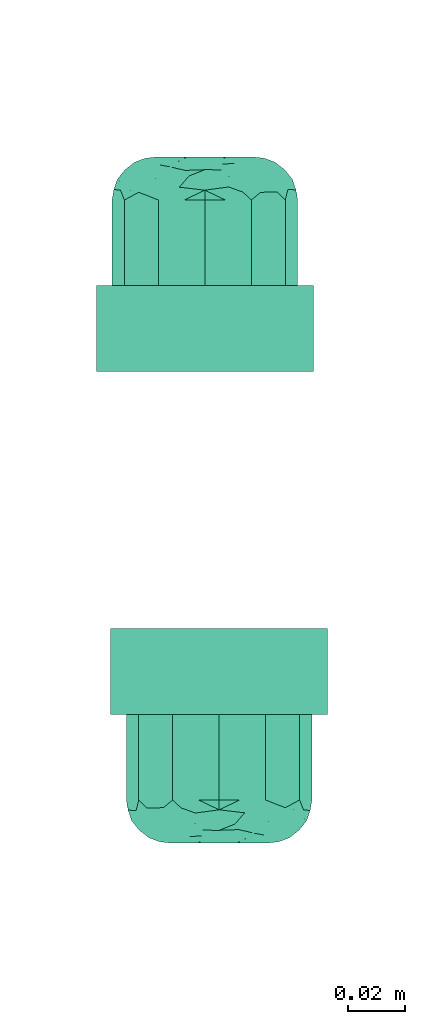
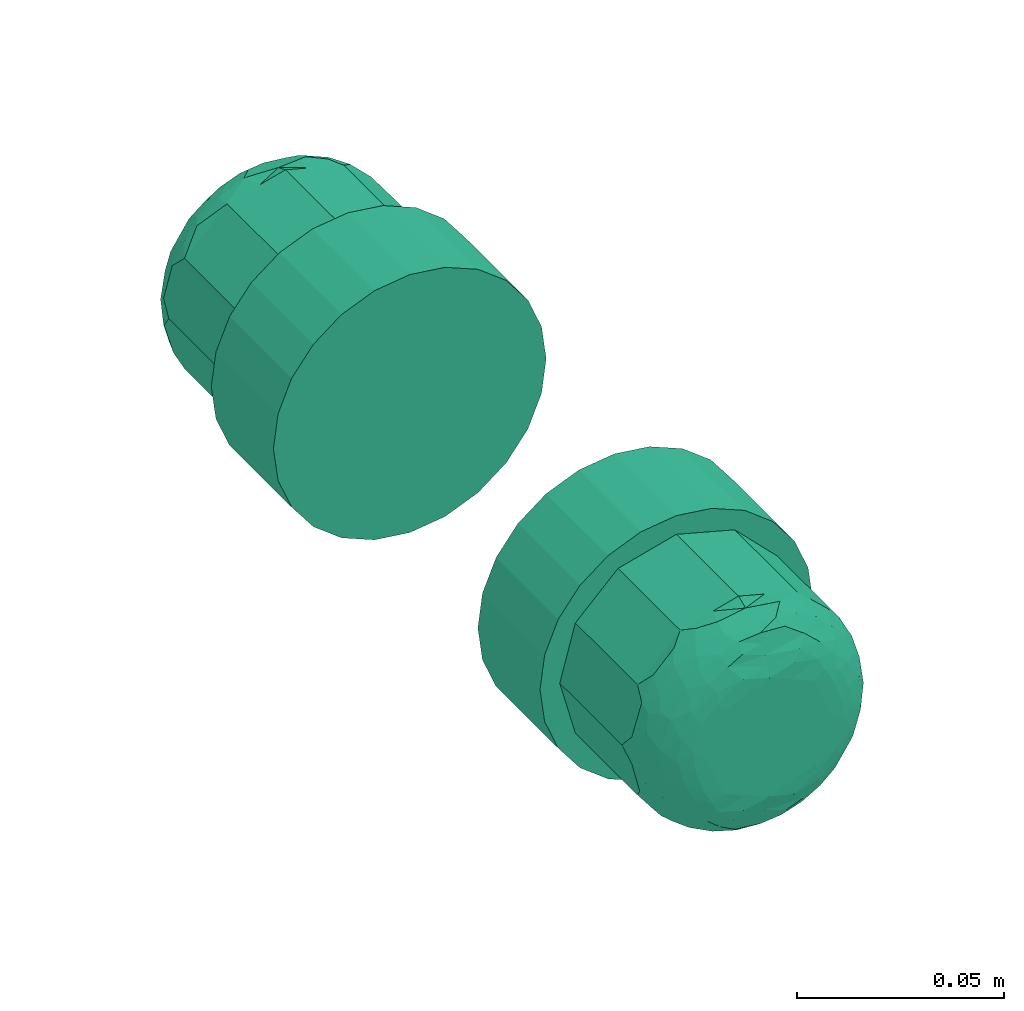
# One storey, part 69 of 153: 2 distribution control elements.
"""IFC2X3 building model written with IfcOpenShell, lengths in metres."""

from ifc_helpers import new_model, entity, si_unit, converted_unit, derived_unit, direction, frame, origin, place, context, subcontext, project, spatial, faceted_brep, source, transform, mapped, material, type_object, type_shapes, element, save


model = new_model("IFC2X3")

# Units and contexts
model_context = context("Model", 3, precision=1e-05, world=origin(), true_north=direction((6.12303176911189e-17, 1.0)))
body_context = subcontext(model_context, "Body", "Model", "MODEL_VIEW")
ifc_project = project(units=[si_unit("LENGTHUNIT", "METRE"), si_unit("AREAUNIT", "SQUARE_METRE"), si_unit("VOLUMEUNIT", "CUBIC_METRE"), converted_unit("PLANEANGLEUNIT", "DEGREE", entity("IfcRatioMeasure", 0.0174532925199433), si_unit("PLANEANGLEUNIT", "RADIAN"), dimensions=[0, 0, 0, 0, 0, 0, 0]), si_unit("MASSUNIT", "GRAM", prefix="KILO"), derived_unit("MASSDENSITYUNIT", [(si_unit("MASSUNIT", "GRAM", prefix="KILO"), 1), (si_unit("LENGTHUNIT", "METRE"), -3)]), si_unit("TIMEUNIT", "SECOND"), si_unit("FREQUENCYUNIT", "HERTZ"), si_unit("THERMODYNAMICTEMPERATUREUNIT", "DEGREE_CELSIUS"), derived_unit("THERMALTRANSMITTANCEUNIT", [(si_unit("MASSUNIT", "GRAM", prefix="KILO"), 1), (si_unit("THERMODYNAMICTEMPERATUREUNIT", "KELVIN"), -1), (si_unit("TIMEUNIT", "SECOND"), -3)]), derived_unit("VOLUMETRICFLOWRATEUNIT", [(si_unit("LENGTHUNIT", "METRE"), 3), (si_unit("TIMEUNIT", "SECOND"), -1)]), si_unit("ELECTRICCURRENTUNIT", "AMPERE"), si_unit("ELECTRICVOLTAGEUNIT", "VOLT"), si_unit("POWERUNIT", "WATT"), si_unit("FORCEUNIT", "NEWTON"), si_unit("ILLUMINANCEUNIT", "LUX"), si_unit("LUMINOUSFLUXUNIT", "LUMEN"), si_unit("LUMINOUSINTENSITYUNIT", "CANDELA"), derived_unit("USERDEFINED", [(si_unit("MASSUNIT", "GRAM", prefix="KILO"), -1), (si_unit("LENGTHUNIT", "METRE"), -2), (si_unit("TIMEUNIT", "SECOND"), 3), (si_unit("LUMINOUSFLUXUNIT", "LUMEN"), 1)]), derived_unit("LINEARVELOCITYUNIT", [(si_unit("LENGTHUNIT", "METRE"), 1), (si_unit("TIMEUNIT", "SECOND"), -1)]), si_unit("PRESSUREUNIT", "PASCAL"), derived_unit("USERDEFINED", [(si_unit("LENGTHUNIT", "METRE"), -2), (si_unit("MASSUNIT", "GRAM", prefix="KILO"), 1), (si_unit("TIMEUNIT", "SECOND"), -2)])], contexts=[model_context])

# Site, building, storey
site_placement = place(None, origin())
site = spatial("IfcSite", under=ifc_project, at=site_placement, Name="Default", CompositionType="ELEMENT")
building_placement = place(site_placement, origin())
building = spatial("IfcBuilding", under=site, at=building_placement, CompositionType="ELEMENT")
storey_placement = place(building_placement, frame((0.0, 0.0, -4.62)))
storey = spatial("IfcBuildingStorey", under=building, at=storey_placement, Name="S02", CompositionType="ELEMENT", Elevation=-4.62)

# Distribution control elements
ifc_material = material(Name="Red plastic")
alarm_type = type_object("IfcAlarmType", Name="Incendie_Flash", PredefinedType="NOTDEFINED", material=ifc_material)
shared_shape = source(origin(), body_context, "Body", "Brep", [
    faceted_brep([(0.00983512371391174, -0.0367051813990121, 0.0299999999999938), (0.0190000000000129, -0.0329089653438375, 0.0299999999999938), (0.0268700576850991, -0.0268700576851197, 0.0299999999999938), (0.0329089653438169, -0.0190000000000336, 0.0299999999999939), (0.0367051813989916, -0.00983512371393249, 0.029999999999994), (0.0380000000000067, 0.0, 0.0299999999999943), (0.0367051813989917, 0.0098351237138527, 0.0299999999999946), (0.0329089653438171, 0.0189999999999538, 0.0299999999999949), (0.0268700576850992, 0.02687005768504, 0.0299999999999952), (0.0190000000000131, 0.0329089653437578, 0.0299999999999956), (0.00983512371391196, 0.0367051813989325, 0.0299999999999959), (0.0, 0.0379999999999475, 0.0299999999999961), (-0.00983512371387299, 0.0367051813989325, 0.0299999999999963), (-0.0189999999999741, 0.0329089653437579, 0.0299999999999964), (-0.0268700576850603, 0.0268700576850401, 0.0299999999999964), (-0.0329089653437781, 0.0189999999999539, 0.0299999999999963), (-0.0367051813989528, 0.0098351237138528, 0.0299999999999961), (-0.0379999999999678, 0.0, 0.0299999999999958), (-0.0367051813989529, -0.00983512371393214, 0.0299999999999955), (-0.0329089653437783, -0.0190000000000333, 0.0299999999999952), (-0.0268700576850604, -0.0268700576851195, 0.0299999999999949), (-0.0189999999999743, -0.0329089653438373, 0.0299999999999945), (-0.0098351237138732, -0.036705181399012, 0.0299999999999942), (0.0, -0.038000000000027, 0.029999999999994), (0.0367051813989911, 0.00983512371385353, 0.0), (0.038000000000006, 0.0, 0.0), (0.036705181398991, -0.00983512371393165, 0.0), (0.0329089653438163, -0.0190000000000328, 0.0), (0.0268700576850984, -0.0268700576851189, 0.0), (0.0190000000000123, -0.0329089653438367, 0.0), (0.00983512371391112, -0.0367051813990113, 0.0), (0.0, -0.0380000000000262, 0.0), (-0.00983512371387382, -0.0367051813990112, 0.0), (-0.0189999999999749, -0.0329089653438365, 0.0), (-0.0268700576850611, -0.0268700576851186, 0.0), (-0.0329089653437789, -0.0190000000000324, 0.0), (-0.0367051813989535, -0.00983512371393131, 0.0), (-0.0379999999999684, 0.0, 0.0), (-0.0367051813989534, 0.00983512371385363, 0.0), (-0.0329089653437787, 0.0189999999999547, 0.0), (-0.0268700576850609, 0.0268700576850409, 0.0), (-0.0189999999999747, 0.0329089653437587, 0.0), (-0.00983512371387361, 0.0367051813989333, 0.0), (0.0, 0.0379999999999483, 0.0), (0.00983512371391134, 0.0367051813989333, 0.0), (0.0190000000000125, 0.0329089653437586, 0.0), (0.0268700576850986, 0.0268700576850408, 0.0), (0.0329089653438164, 0.0189999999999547, 0.0)], [[[0, 1, 2, 3, 4, 5, 6, 7, 8, 9, 10, 11, 12, 13, 14, 15, 16, 17, 18, 19, 20, 21, 22, 23]], [[24, 25, 26, 27, 28, 29, 30, 31, 32, 33, 34, 35, 36, 37, 38, 39, 40, 41, 42, 43, 44, 45, 46, 47]], [[36, 18, 17, 37]], [[35, 19, 18, 36]], [[21, 20, 34, 33]], [[35, 34, 20, 19]], [[22, 21, 33, 32]], [[23, 22, 32, 31]], [[30, 0, 23, 31]], [[29, 1, 0, 30]], [[29, 28, 2, 1]], [[28, 27, 3, 2]], [[26, 4, 3, 27]], [[26, 25, 5, 4]], [[24, 6, 5, 25]], [[47, 7, 6, 24]], [[9, 8, 46, 45]], [[47, 46, 8, 7]], [[10, 9, 45, 44]], [[11, 10, 44, 43]], [[43, 42, 12, 11]], [[15, 39, 38, 16]], [[40, 39, 15, 14]], [[16, 38, 37, 17]], [[12, 42, 41, 13]], [[41, 40, 14, 13]]]),
    faceted_brep([(0.0, 0.0310753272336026, 0.0634394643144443), (-0.00716197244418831, 0.0305809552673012, 0.0600000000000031), (-0.00833767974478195, 0.0306762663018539, 0.0645629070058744), (-0.0318494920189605, -0.00354130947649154, 0.063663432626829), (-0.0306323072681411, -0.000670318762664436, 0.0672353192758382), (-0.0317848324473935, 0.0042753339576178, 0.0635614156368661), (-0.0227868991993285, -0.00668807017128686, 0.0736367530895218), (-0.0182577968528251, -0.00974892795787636, 0.0746552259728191), (-0.0202727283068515, -0.00358393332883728, 0.074678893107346), (-0.016385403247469, 0.0254148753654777, 0.0679194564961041), (-0.021187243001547, 0.0212245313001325, 0.0683071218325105), (-0.0167767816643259, 0.0227822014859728, 0.0704169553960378), (-0.0200936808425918, -0.0121748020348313, 0.0737502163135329), (-0.00857849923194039, 0.0288841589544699, 0.0680903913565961), (-0.00590296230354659, 0.0275227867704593, 0.0705643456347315), (0.0, 0.0281066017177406, 0.070606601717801), (-0.0253054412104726, 0.0115121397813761, 0.0709036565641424), (-0.0298000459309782, 0.0070831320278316, 0.0672523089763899), (-0.0279333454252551, 0.00316972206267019, 0.0706005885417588), (-0.0142535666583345, 0.0145433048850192, 0.0747241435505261), (-0.00714839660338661, 0.0193281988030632, 0.0746745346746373), (-0.0140812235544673, 0.0176795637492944, 0.0741056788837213), (-0.0187772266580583, 0.0101036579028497, 0.0745046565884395), (-0.0207236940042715, 0.0135056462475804, 0.0731392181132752), (-0.0212676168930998, 0.0232237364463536, 0.0654097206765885), (-0.0253709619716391, 0.0198772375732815, 0.0628318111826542), (-0.0260097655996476, 0.0163827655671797, 0.0670513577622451), (-0.0273833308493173, -0.00573701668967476, 0.0707338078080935), (-0.0245225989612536, -8.80194780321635e-05, 0.0732544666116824), (-0.0290659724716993, 0.0135031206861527, 0.0636489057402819), (-0.0303229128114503, 0.00812499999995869, 0.0600000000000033), (-0.0265039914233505, -0.0119036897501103, 0.0695653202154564), (-0.0207033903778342, -0.0187904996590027, 0.0707520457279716), (-0.0231315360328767, -0.0125689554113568, 0.0721287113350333), (-0.00891676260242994, -0.0305418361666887, 0.064475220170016), (-0.0162499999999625, -0.0281458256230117, 0.0600000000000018), (-0.00812499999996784, -0.0303229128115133, 0.0600000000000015), (-0.00716197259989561, -0.0305809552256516, 0.0600000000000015), (-0.0104492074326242, 0.0229229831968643, 0.0728774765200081), (-0.0115458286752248, 0.0257177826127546, 0.0705219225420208), (0.0, -0.0228033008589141, 0.0728033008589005), (-0.00912165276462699, -0.0220231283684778, 0.0735954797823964), (-0.0118384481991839, -0.0243524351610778, 0.0715443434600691), (-0.0295480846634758, -0.0125213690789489, 0.0634761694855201), (-0.0297777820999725, -0.00830917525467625, 0.066710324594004), (-0.0212284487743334, -0.0212045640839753, 0.0682845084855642), (-0.0258588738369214, -0.0163601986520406, 0.0673075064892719), (-0.0171631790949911, -0.0251277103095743, 0.0676038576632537), (-0.0237895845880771, 0.00671046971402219, 0.0731492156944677), (-0.0212013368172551, 0.00276607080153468, 0.0744892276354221), (-0.0149371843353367, 0.00618718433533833, 0.0750000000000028), (-0.0207033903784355, 0.0187905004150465, 0.0707520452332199), (-0.0303229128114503, -0.00812500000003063, 0.0600000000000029), (-0.0155298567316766, -0.0142338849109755, 0.0745699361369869), (0.0, 0.0296506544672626, 0.0668789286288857), (0.0, -0.0281066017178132, 0.0706066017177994), (0.0, -0.0254549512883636, 0.0717049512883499), (-0.00689181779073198, -0.0275012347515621, 0.0703557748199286), (-0.0140812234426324, -0.0176795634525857, 0.0741056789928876), (-0.00714839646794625, -0.0193281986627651, 0.0746745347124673), (-0.00618718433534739, -0.0149371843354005, 0.0750000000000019), (0.0, 0.0228033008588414, 0.0728033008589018), (-0.0062193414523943, 0.024999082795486, 0.0725201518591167), (-0.0162499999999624, 0.0281458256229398, 0.0600000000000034), (-0.0221979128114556, 0.0221979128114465, 0.0600000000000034), (-0.0195368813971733, 0.0256689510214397, 0.0626830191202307), (-0.0150650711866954, 0.0277296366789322, 0.0652326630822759), (0.0, 0.0324999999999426, 0.0600000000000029), (-0.0133801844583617, 0.0293432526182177, 0.0627277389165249), (-0.00812499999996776, 0.0303229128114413, 0.0600000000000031), (-0.0281458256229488, 0.0162499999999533, 0.0600000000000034), (-0.0288189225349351, 0.0118325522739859, 0.0662114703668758), (-0.026864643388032, 0.0126649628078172, 0.0687264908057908), (-0.0324999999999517, 0.0, 0.0600000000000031), (-0.0281458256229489, -0.0162500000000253, 0.0600000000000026), (-0.0123743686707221, -0.0123743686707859, 0.0750000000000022), (-0.0149371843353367, -0.00618718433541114, 0.0750000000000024), (-0.0261755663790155, -0.0186043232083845, 0.0633828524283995), (-0.0231574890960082, -0.022453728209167, 0.0626954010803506), (-0.0215965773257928, -0.0229734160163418, 0.0653044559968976), (-0.0116849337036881, -0.028048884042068, 0.0676788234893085), (-0.0161946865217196, -0.027510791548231, 0.0641184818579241), (-0.005544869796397, -0.029399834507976, 0.0684136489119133), (0.0, -0.0201516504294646, 0.0739016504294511), (-0.0221979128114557, -0.0221979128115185, 0.0600000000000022), (-0.0160989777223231, 0.0197228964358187, 0.0727142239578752), (0.0, 0.0201516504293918, 0.0739016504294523), (0.0, 0.0174999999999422, 0.0750000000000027), (-0.00618718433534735, 0.0149371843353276, 0.0750000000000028), (-0.018783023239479, -0.0171862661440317, 0.072714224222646), (-0.0123743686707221, 0.0123743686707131, 0.075000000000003), (-0.0174999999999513, 0.0, 0.0750000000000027), (0.0, -0.0310753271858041, 0.0634394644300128), (0.0, -0.0296506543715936, 0.0668789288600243), (0.0, -0.0325000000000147, 0.0600000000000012), (-0.0154632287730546, -0.0211512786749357, 0.0722185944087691), (0.0, -0.0175000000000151, 0.0750000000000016), (0.0, 0.025454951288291, 0.0717049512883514), (0.0071619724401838, -0.0305809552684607, 0.060000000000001), (0.0083376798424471, -0.030676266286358, 0.0645629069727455), (0.0207033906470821, -0.0187905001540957, 0.0707520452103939), (0.0253054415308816, -0.0115121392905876, 0.0709036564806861), (0.020723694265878, -0.0135056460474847, 0.0731392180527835), (0.0115458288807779, -0.0257177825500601, 0.0705219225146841), (0.00590296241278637, -0.0275227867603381, 0.0705643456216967), (0.00857849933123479, -0.0288841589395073, 0.0680903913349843), (0.0163854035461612, -0.0254148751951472, 0.0679194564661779), (0.0211872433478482, -0.0212245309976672, 0.0683071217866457), (0.016776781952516, -0.0227822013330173, 0.0704169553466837), (0.0290659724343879, -0.0135031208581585, 0.0636489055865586), (0.0303229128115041, -0.0081250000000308, 0.0600000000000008), (0.0317848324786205, -0.0042753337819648, 0.0635614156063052), (0.0265039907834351, 0.0119036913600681, 0.0695653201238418), (0.0207033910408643, 0.0187904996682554, 0.0707520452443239), (0.0231315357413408, 0.0125689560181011, 0.0721287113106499), (0.0142535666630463, -0.0145433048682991, 0.074724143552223), (0.00714839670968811, -0.0193281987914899, 0.074674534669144), (0.0140812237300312, -0.0176795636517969, 0.0741056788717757), (0.0187772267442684, -0.01010365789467, 0.0745046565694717), (0.023789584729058, -0.0067104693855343, 0.0731492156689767), (0.0279333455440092, -0.00316972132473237, 0.070600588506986), (0.024522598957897, 8.80198207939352e-05, 0.0732544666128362), (0.027383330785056, 0.00573701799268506, 0.070733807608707), (0.0227868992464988, 0.00668807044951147, 0.0736367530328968), (0.0104492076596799, -0.0229229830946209, 0.0728774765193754), (0.0297777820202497, 0.00830917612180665, 0.0667103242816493), (0.0318494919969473, 0.0035413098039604, 0.0636634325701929), (0.0295480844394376, 0.0125213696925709, 0.0634761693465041), (0.0303229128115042, 0.00812499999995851, 0.0600000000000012), (0.0200936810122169, 0.0121748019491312, 0.073750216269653), (0.0182577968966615, 0.00974892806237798, 0.074655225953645), (0.0118384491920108, 0.0243524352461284, 0.0715443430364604), (0.0212284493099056, 0.0212045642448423, 0.0682845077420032), (0.0171631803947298, 0.0251277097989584, 0.0676038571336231), (0.020272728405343, 0.00358393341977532, 0.0746788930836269), (0.00912165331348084, 0.0220231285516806, 0.073595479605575), (0.0306323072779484, 0.00067031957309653, 0.0672353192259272), (0.02585887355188, 0.0163601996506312, 0.0673075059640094), (0.00891676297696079, 0.030541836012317, 0.0644752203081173), (0.0162500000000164, 0.0281458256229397, 0.0600000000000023), (0.0081250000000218, 0.0303229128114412, 0.0600000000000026), (0.00716197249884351, 0.0305809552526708, 0.0600000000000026), (0.0212676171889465, -0.0232237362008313, 0.0654097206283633), (0.0253709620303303, -0.0198772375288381, 0.0628318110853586), (0.0260097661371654, -0.0163827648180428, 0.0670513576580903), (0.0298000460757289, -0.00708313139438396, 0.0672523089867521), (0.0212013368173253, -0.00276607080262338, 0.0744892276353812), (0.0149371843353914, -0.00618718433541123, 0.0750000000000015), (0.0155298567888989, 0.0142338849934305, 0.0745699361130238), (0.00689181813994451, 0.0275012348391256, 0.0703557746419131), (0.014081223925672, 0.0176795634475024, 0.0741056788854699), (0.00714839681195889, 0.0193281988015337, 0.0746745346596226), (0.00618718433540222, 0.0149371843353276, 0.0750000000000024), (0.00621934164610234, -0.0249990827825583, 0.0725201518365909), (0.0162500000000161, -0.0281458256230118, 0.0600000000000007), (0.0221979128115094, -0.0221979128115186, 0.0600000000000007), (0.0195368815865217, -0.0256689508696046, 0.0626830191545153), (0.0150650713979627, -0.0277296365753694, 0.0652326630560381), (0.0133801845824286, -0.0293432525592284, 0.0627277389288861), (0.00812500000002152, -0.0303229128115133, 0.060000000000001), (0.0281458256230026, -0.0162500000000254, 0.0600000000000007), (0.0288189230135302, -0.0118325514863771, 0.0662114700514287), (0.0268646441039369, -0.0126649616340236, 0.0687264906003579), (0.0325000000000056, 0.0, 0.060000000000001), (0.0281458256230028, 0.0162499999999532, 0.0600000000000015), (0.0123743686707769, 0.012374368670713, 0.0750000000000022), (0.0149371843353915, 0.00618718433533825, 0.0750000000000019), (0.0261755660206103, 0.0186043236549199, 0.0633828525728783), (0.0231574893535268, 0.0224537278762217, 0.0626954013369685), (0.0215965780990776, 0.0229734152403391, 0.06530445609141), (0.0116849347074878, 0.0280488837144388, 0.0676788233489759), (0.0161946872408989, 0.027510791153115, 0.0641184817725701), (0.00554487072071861, 0.0293998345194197, 0.0684136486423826), (0.0221979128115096, 0.0221979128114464, 0.0600000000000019), (0.0160989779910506, -0.0197228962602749, 0.0727142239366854), (0.00618718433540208, -0.0149371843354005, 0.0750000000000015), (0.0187830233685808, 0.0171862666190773, 0.072714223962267), (0.0123743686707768, -0.012374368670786, 0.0750000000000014), (0.017500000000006, 0.0, 0.0750000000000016), (0.0154632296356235, 0.021151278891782, 0.0722185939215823), (0.0, 0.0, 0.0750000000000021), (0.0, 0.0, 0.0300000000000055), (0.0, -0.0325000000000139, 0.0300000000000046), (-0.0089852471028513, -0.0300924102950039, 0.0300000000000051), (-0.0162499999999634, -0.028145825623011, 0.0300000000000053), (-0.0221979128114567, -0.0221979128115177, 0.0300000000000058), (-0.0281458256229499, -0.0162500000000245, 0.030000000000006), (-0.0303229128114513, -0.00812500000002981, 0.0300000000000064), (-0.0324999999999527, 0.0, 0.0300000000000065), (-0.0303229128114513, 0.00812499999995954, 0.0300000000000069), (-0.0281458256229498, 0.0162499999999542, 0.0300000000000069), (-0.0221979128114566, 0.0221979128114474, 0.030000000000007), (-0.0162499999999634, 0.0281458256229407, 0.0300000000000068), (-0.00812499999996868, 0.0303229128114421, 0.0300000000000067), (0.0, 0.0324999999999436, 0.0300000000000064), (0.00898524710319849, 0.0300924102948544, 0.0300000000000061), (0.00812500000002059, -0.0303229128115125, 0.0300000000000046), (0.0162500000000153, -0.0281458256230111, 0.0300000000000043), (0.0221979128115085, -0.0221979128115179, 0.0300000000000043), (0.0281458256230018, -0.0162500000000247, 0.0300000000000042), (0.0303229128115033, -0.00812500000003, 0.0300000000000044), (0.0325000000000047, 0.0, 0.0300000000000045), (0.0162500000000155, 0.0281458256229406, 0.0300000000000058), (0.0221979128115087, 0.0221979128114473, 0.0300000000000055), (0.0281458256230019, 0.016249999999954, 0.0300000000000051), (0.0303229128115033, 0.00812499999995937, 0.0300000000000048)], [[[0, 1, 2]], [[3, 4, 5]], [[6, 7, 8]], [[9, 10, 11]], [[12, 7, 6]], [[13, 14, 15]], [[16, 17, 18]], [[19, 20, 21]], [[22, 19, 23]], [[24, 25, 26]], [[27, 6, 28]], [[17, 5, 4]], [[29, 30, 5]], [[31, 32, 33]], [[34, 35, 36, 37]], [[38, 39, 11]], [[40, 41, 42]], [[43, 44, 3]], [[27, 33, 6]], [[45, 32, 46]], [[45, 47, 42]], [[48, 18, 28]], [[14, 13, 39]], [[49, 50, 22]], [[51, 16, 23]], [[43, 3, 52]], [[20, 38, 21]], [[53, 7, 12]], [[15, 54, 13]], [[55, 56, 57]], [[58, 59, 60]], [[61, 62, 38]], [[63, 64, 65]], [[65, 25, 24]], [[66, 13, 2]], [[54, 2, 13]], [[13, 66, 9]], [[66, 65, 24]], [[54, 0, 2]], [[0, 67, 1]], [[68, 1, 69, 63]], [[68, 66, 2]], [[9, 66, 24]], [[26, 25, 29]], [[25, 64, 70]], [[26, 51, 10]], [[29, 25, 70]], [[26, 71, 72]], [[30, 73, 5]], [[71, 26, 29]], [[29, 70, 30]], [[3, 5, 73]], [[5, 17, 71]], [[74, 43, 52]], [[3, 44, 4]], [[3, 73, 52]], [[27, 4, 44]], [[18, 17, 4]], [[44, 46, 31]], [[7, 75, 76]], [[27, 18, 4]], [[16, 18, 48]], [[23, 16, 48]], [[51, 26, 72]], [[77, 43, 74]], [[44, 43, 46]], [[77, 78, 79]], [[80, 81, 34]], [[77, 46, 43]], [[45, 46, 79]], [[55, 57, 82]], [[59, 41, 83]], [[47, 81, 80]], [[81, 78, 35]], [[46, 77, 79]], [[74, 84, 35, 78]], [[10, 9, 24]], [[13, 9, 39]], [[26, 10, 24]], [[11, 10, 51]], [[38, 85, 21]], [[9, 11, 39]], [[85, 11, 51]], [[38, 20, 86]], [[86, 20, 87]], [[86, 61, 38]], [[31, 33, 27]], [[19, 88, 20]], [[88, 87, 20]], [[89, 33, 32]], [[22, 23, 48]], [[23, 21, 85]], [[22, 48, 49]], [[19, 22, 90]], [[28, 49, 48]], [[6, 8, 28]], [[50, 49, 91]], [[50, 90, 22]], [[27, 28, 18]], [[8, 7, 76]], [[49, 8, 91]], [[6, 33, 12]], [[91, 8, 76]], [[8, 49, 28]], [[89, 12, 33]], [[53, 12, 58]], [[58, 60, 53]], [[75, 7, 53]], [[92, 93, 34]], [[75, 53, 60]], [[93, 82, 34]], [[37, 94, 92]], [[37, 92, 34]], [[81, 79, 78]], [[35, 34, 81]], [[44, 31, 27]], [[32, 31, 46]], [[65, 66, 68]], [[25, 65, 64]], [[32, 95, 89]], [[56, 40, 42]], [[57, 80, 82]], [[56, 42, 57]], [[42, 80, 57]], [[34, 82, 80]], [[55, 82, 93]], [[41, 40, 83]], [[83, 96, 59]], [[58, 89, 95]], [[60, 59, 96]], [[41, 59, 58]], [[62, 61, 97]], [[97, 15, 14]], [[62, 14, 39]], [[14, 62, 97]], [[39, 38, 62]], [[1, 68, 2]], [[65, 68, 63]], [[5, 71, 29]], [[72, 17, 16]], [[17, 72, 71]], [[51, 72, 16]], [[47, 45, 79]], [[42, 32, 45]], [[81, 47, 79]], [[42, 47, 80]], [[74, 78, 77]], [[11, 85, 38]], [[23, 85, 51]], [[32, 42, 95]], [[12, 89, 58]], [[42, 41, 95]], [[58, 95, 41]], [[88, 19, 90]], [[23, 19, 21]], [[92, 98, 99]], [[100, 101, 102]], [[103, 104, 105]], [[106, 107, 108]], [[109, 110, 111]], [[55, 105, 104]], [[112, 113, 114]], [[115, 116, 117]], [[118, 115, 102]], [[119, 120, 121]], [[122, 123, 121]], [[124, 103, 108]], [[125, 126, 127]], [[127, 126, 128]], [[129, 130, 123]], [[131, 132, 133]], [[123, 130, 134]], [[61, 135, 131]], [[126, 136, 111]], [[132, 113, 137]], [[138, 139, 140, 141]], [[142, 143, 144]], [[145, 111, 136]], [[146, 147, 118]], [[122, 114, 123]], [[101, 145, 120]], [[116, 124, 117]], [[148, 130, 129]], [[55, 93, 105]], [[15, 97, 149]], [[150, 151, 152]], [[40, 153, 124]], [[154, 155, 156]], [[156, 143, 142]], [[157, 105, 99]], [[93, 99, 105]], [[105, 157, 106]], [[157, 156, 142]], [[93, 92, 99]], [[92, 94, 98]], [[158, 98, 159, 154]], [[158, 157, 99]], [[106, 157, 142]], [[144, 143, 109]], [[143, 155, 160]], [[144, 100, 107]], [[109, 143, 160]], [[144, 161, 162]], [[110, 163, 111]], [[161, 144, 109]], [[109, 160, 110]], [[126, 111, 163]], [[111, 145, 161]], [[164, 127, 128]], [[126, 125, 136]], [[126, 163, 128]], [[122, 136, 125]], [[120, 145, 136]], [[125, 137, 112]], [[130, 165, 166]], [[122, 120, 136]], [[101, 120, 119]], [[102, 101, 119]], [[100, 144, 162]], [[167, 127, 164]], [[125, 127, 137]], [[167, 168, 169]], [[170, 171, 138]], [[167, 137, 127]], [[132, 137, 169]], [[15, 149, 172]], [[151, 135, 86]], [[133, 171, 170]], [[171, 168, 139]], [[137, 167, 169]], [[164, 173, 139, 168]], [[107, 106, 142]], [[105, 106, 103]], [[144, 107, 142]], [[108, 107, 100]], [[124, 174, 117]], [[106, 108, 103]], [[174, 108, 100]], [[124, 116, 83]], [[83, 116, 96]], [[83, 40, 124]], [[112, 114, 122]], [[115, 175, 116]], [[175, 96, 116]], [[176, 114, 113]], [[118, 102, 119]], [[102, 117, 174]], [[118, 119, 146]], [[115, 118, 177]], [[121, 146, 119]], [[123, 134, 121]], [[147, 146, 178]], [[147, 177, 118]], [[122, 121, 120]], [[134, 130, 166]], [[146, 134, 178]], [[123, 114, 129]], [[178, 134, 166]], [[134, 146, 121]], [[176, 129, 114]], [[148, 129, 150]], [[150, 152, 148]], [[165, 130, 148]], [[0, 54, 138]], [[165, 148, 152]], [[54, 172, 138]], [[141, 67, 0]], [[141, 0, 138]], [[171, 169, 168]], [[139, 138, 171]], [[125, 112, 122]], [[113, 112, 137]], [[156, 157, 158]], [[143, 156, 155]], [[113, 179, 176]], [[97, 61, 131]], [[149, 170, 172]], [[97, 131, 149]], [[131, 170, 149]], [[138, 172, 170]], [[15, 172, 54]], [[135, 61, 86]], [[86, 87, 151]], [[150, 176, 179]], [[152, 151, 87]], [[135, 151, 150]], [[153, 40, 56]], [[104, 103, 153]], [[56, 55, 104]], [[104, 153, 56]], [[103, 124, 153]], [[98, 158, 99]], [[156, 158, 154]], [[111, 161, 109]], [[162, 145, 101]], [[145, 162, 161]], [[100, 162, 101]], [[133, 132, 169]], [[131, 113, 132]], [[171, 133, 169]], [[131, 133, 170]], [[164, 168, 167]], [[108, 174, 124]], [[102, 174, 100]], [[113, 131, 179]], [[129, 176, 150]], [[131, 135, 179]], [[150, 179, 135]], [[175, 115, 177]], [[102, 115, 117]], [[180, 91, 76]], [[180, 76, 75]], [[180, 75, 60]], [[180, 60, 96]], [[180, 96, 175]], [[180, 50, 91]], [[180, 90, 50]], [[180, 88, 90]], [[180, 87, 88]], [[180, 175, 177]], [[180, 177, 147]], [[180, 147, 178]], [[180, 178, 166]], [[180, 152, 87]], [[180, 165, 152]], [[180, 166, 165]], [[181, 182, 183]], [[181, 183, 184]], [[181, 184, 185]], [[181, 185, 186]], [[181, 186, 187]], [[181, 187, 188]], [[181, 188, 189]], [[181, 189, 190]], [[181, 190, 191]], [[181, 191, 192]], [[181, 192, 193]], [[181, 193, 194]], [[181, 194, 195]], [[181, 196, 182]], [[181, 197, 196]], [[181, 198, 197]], [[181, 199, 198]], [[181, 200, 199]], [[181, 201, 200]], [[181, 195, 202]], [[181, 202, 203]], [[181, 203, 204]], [[181, 204, 205]], [[181, 205, 201]], [[63, 192, 191, 190, 70, 64]], [[192, 63, 69, 1, 67, 194, 193]], [[183, 182, 94, 37, 36, 35, 184]], [[30, 70, 190, 189, 188, 73]], [[186, 185, 184, 35, 84, 74]], [[73, 188, 187, 186, 74, 52]], [[197, 154, 159, 98, 94, 182, 196]], [[155, 154, 197, 198, 199, 160]], [[195, 194, 67, 141, 140, 139, 202]], [[110, 160, 199, 200, 201, 163]], [[164, 204, 203, 202, 139, 173]], [[128, 163, 201, 205, 204, 164]]]),
])
type_shapes(alarm_type, [shared_shape])
for number, where, z_axis, x_axis, name in (
    (1, (48.3937436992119, -192.469651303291, 2.40000000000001), (0.0, -1.0, 0.0), (1.0, 0.0, 0.0), "INT_Flash:Incendie_Flash"),
    (2, (48.388743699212, -192.379651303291, 2.40000000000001), (0.0, 1.0, 0.0), (-1.0, 0.0, 0.0), "INT_Flash:Incendie_Flash"),
):
    element("IfcDistributionControlElement", number, at=place(storey_placement, frame(where, z_axis=z_axis, x_axis=x_axis)), inside=storey, type_object=alarm_type, material=ifc_material, Name=name, ObjectType="INT_Flash:Incendie_Flash", context=body_context, shape_type="MappedRepresentation", body=[
        mapped(shared_shape, transform((0.0, 0.0, 0.0), scale=1.0)),
    ])

save(model, "model.ifc")
